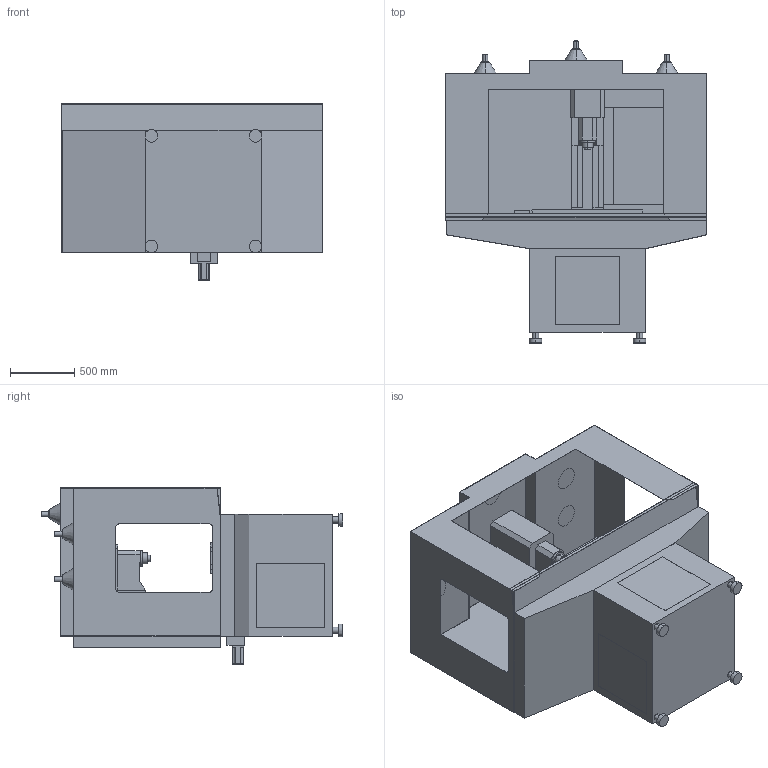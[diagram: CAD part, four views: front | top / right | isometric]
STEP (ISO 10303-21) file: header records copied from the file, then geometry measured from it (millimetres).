
FILE_DESCRIPTION (( 'STEP AP214' ), '1' );
FILE_NAME ('PCNC-1100 WITH BASE AND ENCLOSURE.STEP', '2014-06-18T15:01:59', ( '' ), ( '' ), 'SwSTEP 2.0', 'SolidWorks 2012', '' );
FILE_SCHEMA (( 'AUTOMOTIVE_DESIGN' ));
Length unit declared in the file: millimetre
Products named in the file (16): 34427 PCNC-1100 ENCLOSURE; 32085 PCNC-1100 MACHINE; 1100 SPINDLE; AXIS MOTOR; 1100 y-axis gearbox; 1100 z-axis gearbox; 1100 ELC CABINET; 1100 SPINDLE GUARD; 1100 SPINDLE HOUSING; Z-AXIS SADDLE; 1100 COLUMN; 1100 TABLE; 1100 BASE- X-AXIS; 1100 BASE- Y-AXIS; 30297 PCNC-1100 BASE; PCNC-1100 WITH BASE AND ENCLOSURE
Assembly tree (18 placements, depth 3):
  PCNC-1100 WITH BASE AND ENCLOSURE
    30297 PCNC-1100 BASE
    32085 PCNC-1100 MACHINE
      1100 BASE- Y-AXIS
      1100 BASE- X-AXIS
      1100 TABLE
      1100 COLUMN
      Z-AXIS SADDLE
      1100 SPINDLE HOUSING
      1100 SPINDLE GUARD
      1100 ELC CABINET
      1100 z-axis gearbox
      1100 y-axis gearbox  x2
      AXIS MOTOR  x3
      1100 SPINDLE
    34427 PCNC-1100 ENCLOSURE
Bounding box: 2027.75 x 2350 x 1371.25 mm (x, y, z)
Volume: 914550663.9 mm3; surface area: 34625252.6 mm2
Topology: 20 solids, 20 shells, 624 faces, 1562 edges, 992 vertices
Faces by surface type: plane 423, cylinder 133, torus 32, sphere 24, cone 12
Entity records: 16385 total; most frequent: CARTESIAN_POINT 2738, DIRECTION 2690, ORIENTED_EDGE 2644, EDGE_CURVE 1322, LINE 1058, VECTOR 1058, VERTEX_POINT 864, AXIS2_PLACEMENT_3D 816
